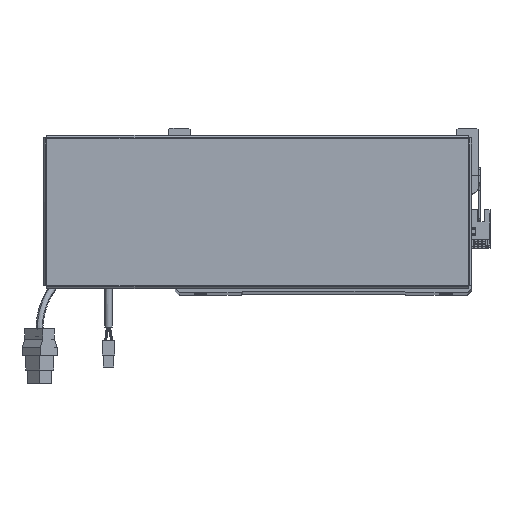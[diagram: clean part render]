
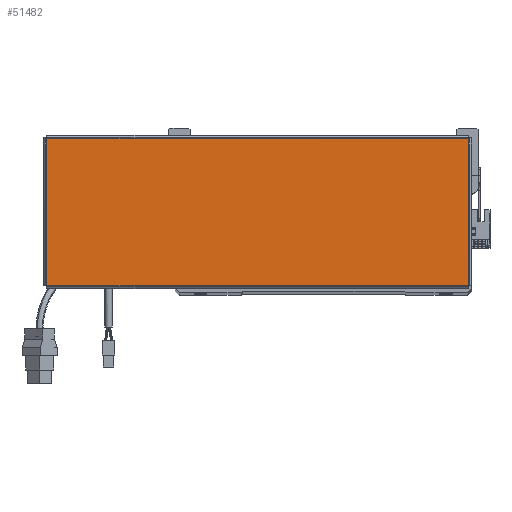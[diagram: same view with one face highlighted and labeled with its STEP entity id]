
A CAD part, top view. The second image highlights one B-rep face of the part: STEP entity #51482.
In plain terms, the highlighted planar face has unit normal (0, 0, 1).
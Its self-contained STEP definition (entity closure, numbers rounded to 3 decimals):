
#575 = CARTESIAN_POINT ( 'NONE',  ( 0., 0., 0. ) ) ;
#744 = DIRECTION ( 'NONE',  ( -1., 0., 0. ) ) ;
#2746 = VECTOR ( 'NONE', #67583, 1000. ) ;
#2780 = CARTESIAN_POINT ( 'NONE',  ( -156.513, 54.763, 0. ) ) ;
#4034 = CARTESIAN_POINT ( 'NONE',  ( -156.513, -54.763, 0. ) ) ;
#6082 = CARTESIAN_POINT ( 'NONE',  ( -156.513, 54.793, 0. ) ) ;
#6669 = PLANE ( 'NONE',  #25443 ) ;
#6726 = LINE ( 'NONE', #6082, #61970 ) ;
#7400 = VERTEX_POINT ( 'NONE', #26240 ) ;
#9336 = EDGE_CURVE ( 'NONE', #7400, #50730, #13521, .T. ) ;
#9880 = VERTEX_POINT ( 'NONE', #4034 ) ;
#13521 = LINE ( 'NONE', #26788, #28641 ) ;
#14890 = ORIENTED_EDGE ( 'NONE', *, *, #28438, .T. ) ;
#16131 = CARTESIAN_POINT ( 'NONE',  ( 156.513, -54.763, 0. ) ) ;
#17006 = LINE ( 'NONE', #46045, #2746 ) ;
#19944 = CARTESIAN_POINT ( 'NONE',  ( 156.513, -54.793, 0. ) ) ;
#21810 = DIRECTION ( 'NONE',  ( 0., -1., 0. ) ) ;
#23960 = LINE ( 'NONE', #19944, #64946 ) ;
#25443 = AXIS2_PLACEMENT_3D ( 'NONE', #575, #27286, #33130 ) ;
#26240 = CARTESIAN_POINT ( 'NONE',  ( 156.513, 54.763, 0. ) ) ;
#26788 = CARTESIAN_POINT ( 'NONE',  ( 156.543, 54.763, 0. ) ) ;
#27286 = DIRECTION ( 'NONE',  ( 0., 0., 1. ) ) ;
#28438 = EDGE_CURVE ( 'NONE', #67802, #7400, #23960, .T. ) ;
#28641 = VECTOR ( 'NONE', #744, 1000. ) ;
#31041 = ORIENTED_EDGE ( 'NONE', *, *, #44274, .T. ) ;
#33130 = DIRECTION ( 'NONE',  ( 1., 0., 0. ) ) ;
#39245 = EDGE_LOOP ( 'NONE', ( #69338, #14890, #45146, #31041 ) ) ;
#44274 = EDGE_CURVE ( 'NONE', #50730, #9880, #6726, .T. ) ;
#45146 = ORIENTED_EDGE ( 'NONE', *, *, #9336, .T. ) ;
#46045 = CARTESIAN_POINT ( 'NONE',  ( -156.543, -54.763, 0. ) ) ;
#46109 = DIRECTION ( 'NONE',  ( 0., 1., 0. ) ) ;
#48648 = EDGE_CURVE ( 'NONE', #9880, #67802, #17006, .T. ) ;
#50730 = VERTEX_POINT ( 'NONE', #2780 ) ;
#51482 = ADVANCED_FACE ( 'NONE', ( #53890 ), #6669, .T. ) ;
#53890 = FACE_OUTER_BOUND ( 'NONE', #39245, .T. ) ;
#61970 = VECTOR ( 'NONE', #21810, 1000. ) ;
#64946 = VECTOR ( 'NONE', #46109, 1000. ) ;
#67583 = DIRECTION ( 'NONE',  ( 1., 0., 0. ) ) ;
#67802 = VERTEX_POINT ( 'NONE', #16131 ) ;
#69338 = ORIENTED_EDGE ( 'NONE', *, *, #48648, .T. ) ;
